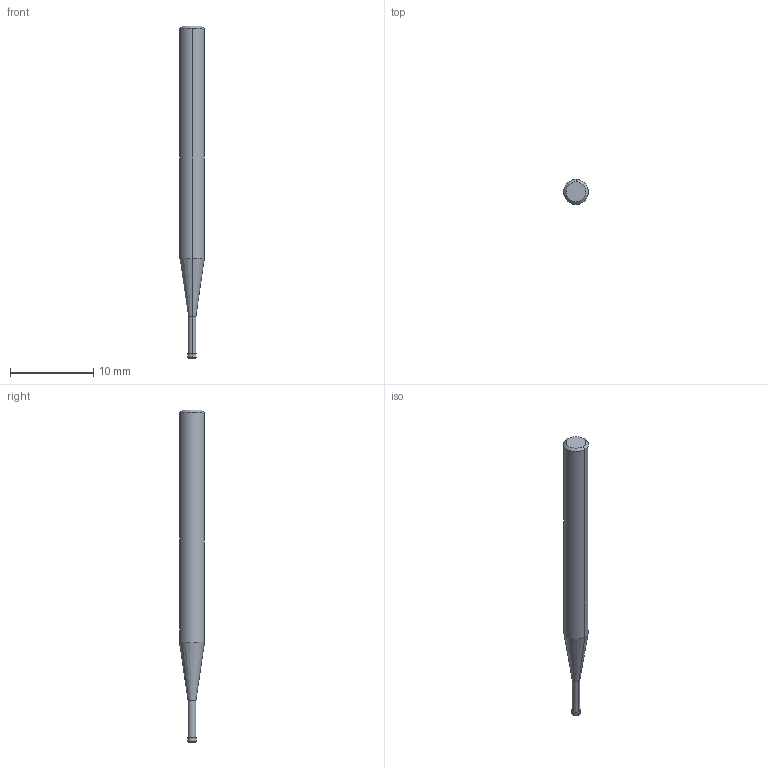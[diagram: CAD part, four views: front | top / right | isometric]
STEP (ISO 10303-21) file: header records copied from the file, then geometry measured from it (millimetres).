
FILE_DESCRIPTION(('no description'),'unknown implementation level');
FILE_NAME('solidVRBjjhqUbl5ibl0LnUKP7MZiDnU_1.STP',' ',('CIMSOURCE GmbH'),('CADClick - KiM GmbH - www.kimweb.de'),'unknown preprocess','ACIS','unknown authorization');
FILE_SCHEMA(('automotive_design'));
Length unit declared in the file: millimetre
Products named in the file (2): NOCUT; CUT
Bounding box: 3 x 3 x 40 mm (x, y, z)
Volume: 224.4 mm3; surface area: 330.9 mm2
Topology: 2 solids, 2 shells, 34 faces, 81 edges, 50 vertices
Faces by surface type: cylinder 12, cone 10, plane 10, torus 2
Entity records: 2118 total; most frequent: CARTESIAN_POINT 383, DIRECTION 173, STYLED_ITEM 163, PRESENTATION_STYLE_ASSIGNMENT 163, COLOUR_RGB 163, ORIENTED_EDGE 154, EDGE_CURVE 77, CURVE_STYLE 77
